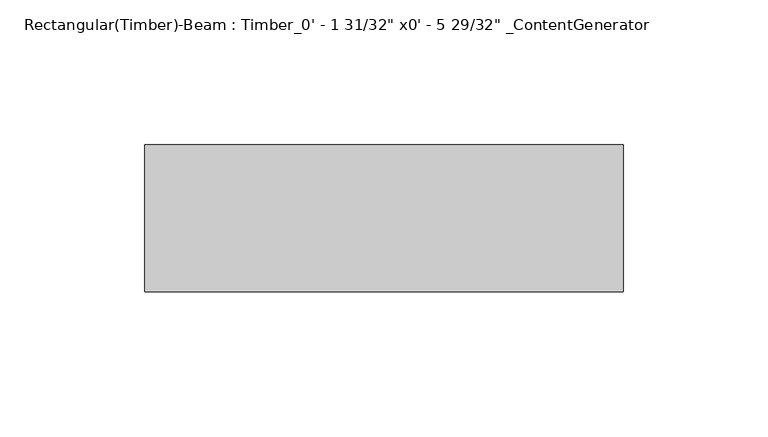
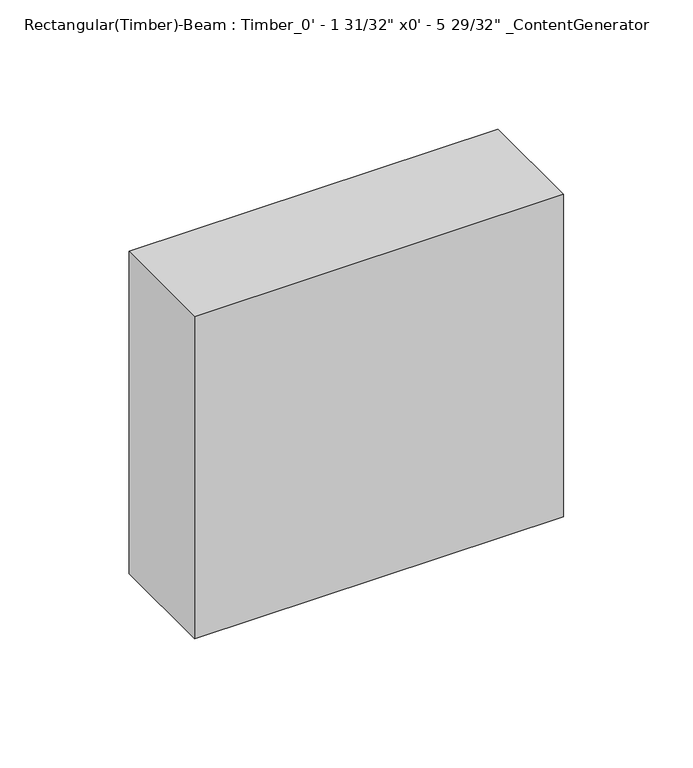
"""IFC4 building model written with IfcOpenShell, lengths in millimetres: beam geometry."""

from ifc_helpers import new_model, si_unit, frame, origin, place, context, project, spatial, polyline, outline, extrude, source, transform, mapped, element, save


def beam_2eff0062(model_context):
    return source(origin(), model_context, "Body", "SweptSolid", [
        extrude(outline(polyline([(82.5649994, 25.4), (82.5649994, -25.4), (-82.5649994, -25.4), (-82.5649994, 25.4), (82.5649994, 25.4)])), frame((0.0, 0.0, -76.2), z_axis=(0.0, 0.0, 1.0), x_axis=(1.0, 0.0, 0.0)), (0.0, 0.0, 1.0), 152.4),
    ])


if __name__ == "__main__":
    model = new_model("IFC4")
    model_context = context("Model", 3, world=origin())
    ifc_project = project(units=[si_unit("LENGTHUNIT", "METRE", prefix="MILLI")], contexts=[model_context])
    site = spatial("IfcSite", under=ifc_project)
    building = spatial("IfcBuilding", under=site)
    placement = place(None, origin())
    beam_shape = beam_2eff0062(model_context)
    element("IfcBeam", 1, ObjectType="Rectangular(Timber)-Beam : Timber_0' - 1 31/32\" x0' - 5 29/32\" _ContentGenerator", at=placement, inside=building, context=model_context, shape_type="MappedRepresentation", body=[
        mapped(beam_shape, transform((0.0, 0.0, 0.0), x_axis=(1.0, 0.0, 0.0), y_axis=(0.0, 1.0, 0.0), z_axis=(0.0, 0.0, 1.0))),
    ])
    save(model, "model.ifc")
